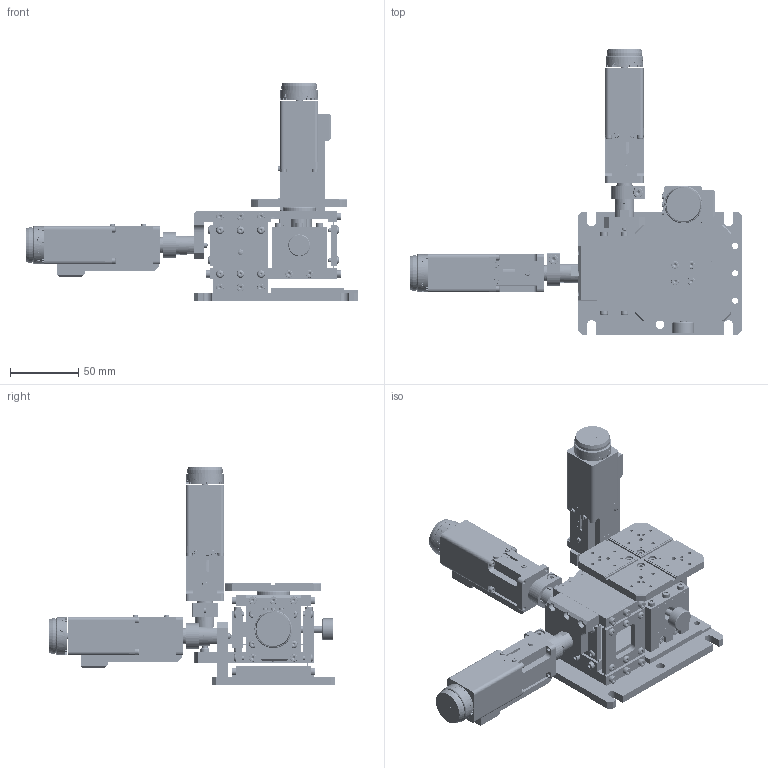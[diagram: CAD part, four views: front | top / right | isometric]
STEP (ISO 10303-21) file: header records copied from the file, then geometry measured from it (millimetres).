
FILE_DESCRIPTION(/* description */ (''),/* implementation_level */ '2;1');
FILE_NAME(/* name */ 'C:\Users\dsgn39\Documents\Internetui\8-0086\8MTF2.stp',/* time_stamp */ '2017-07-07T10:04:38+03:00',/* author */ ('dsgn39'),/* organization */ (''),/* preprocessor_version */ 'ST-DEVELOPER v15.2',/* originating_system */ 'Autodesk Inventor 2014',/* authorisation */ '');
FILE_SCHEMA (('AUTOMOTIVE_DESIGN { 1 0 10303 214 3 1 1 }'));
Products named in the file (2): Part2; Assembly1
Bounding box: 242.91 x 208.91 x 159.91 mm (x, y, z)
Volume: 503947.7 mm3; surface area: 175472.2 mm2
Topology: 1 solids, 88 shells, 6019 faces, 16028 edges, 10581 vertices
Faces by surface type: plane 3523, cylinder 1099, bspline 1065, cone 207, torus 119, sphere 6
Full cylindrical faces by diameter (mm): 1.567 x10, 1.783 x9, 2 x24, 2.3 x15, 2.4 x9, 2.459 x22, 2.5 x12, 2.8 x24, 3 x61, 3.242 x7, 3.3 x76, 3.8 x15, 4 x32, 4.3 x8, 4.4 x3, 4.5 x17, 5 x4, 5.5 x42, 5.7 x24, 6 x10, 6.5 x2, 7 x11, 7.2 x3, 8 x13, 11 x1, 11.4 x6, 12 x9, 14 x3, 18 x1, 20 x2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
Entity records: 353383 total; most frequent: CARTESIAN_POINT 217536, ORIENTED_EDGE 29778, DIRECTION 23628, EDGE_CURVE 14889, VERTEX_POINT 10228, AXIS2_PLACEMENT_3D 7915, LINE 7798, VECTOR 7798
